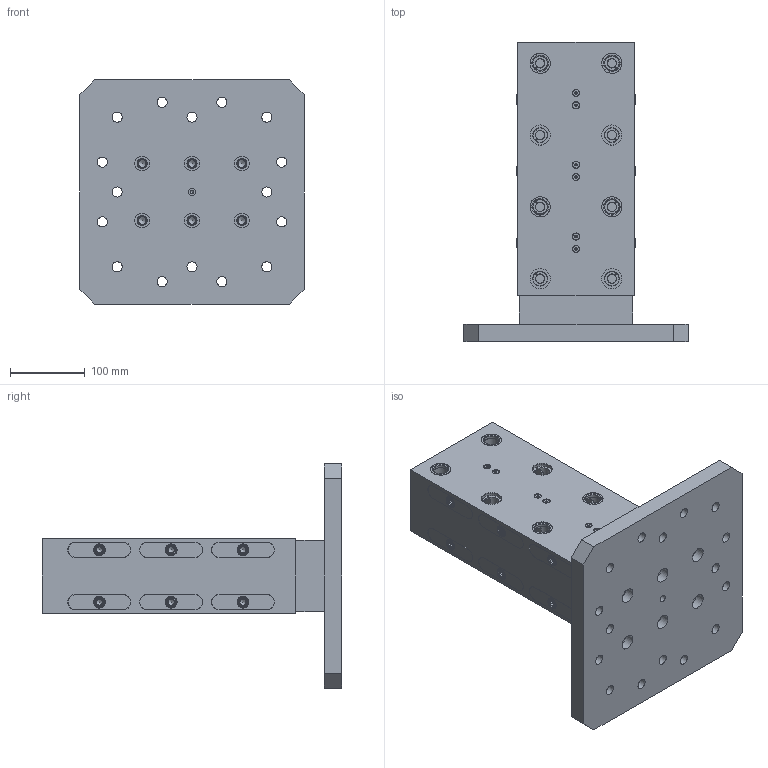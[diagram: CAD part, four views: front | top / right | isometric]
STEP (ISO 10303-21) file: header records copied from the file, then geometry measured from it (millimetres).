
FILE_DESCRIPTION (( 'STEP AP214' ), '1' );
FILE_NAME ('RL96S-3002-400_WEBSITE.step', '2025-08-11T11:37:43', ( '' ), ( '' ), 'SwSTEP 2.0', 'SolidWorks 2025', '' );
FILE_SCHEMA (( 'AUTOMOTIVE_DESIGN' ));
Length unit declared in the file: millimetre
Products named in the file (9): MT-2337S_WEBSITE; RL96-3_dev_WEBSITE_PLATING; SB54_dev_WEBSITE_FINISHED PART; HW27X20.DB_dev_WEBSITE_PLATING; RL96-3002-337S_WEBSITE; RL96S-3002-400_WEBSITE; RL96-2L_dev_WEBSITE; RL96-3002BS_WEBSITE; RL96-2R_dev_WEBSITE_PLATING
Assembly tree (41 placements, depth 3):
  RL96S-3002-400_WEBSITE
    RL96-3002-337S_WEBSITE
      MT-2337S_WEBSITE
      RL96-3002BS_WEBSITE
    HW27X20.DB_dev_WEBSITE_PLATING  x8
    SB54_dev_WEBSITE_FINISHED PART  x12
    RL96-2R_dev_WEBSITE_PLATING  x6
    RL96-2L_dev_WEBSITE  x6
    RL96-3_dev_WEBSITE_PLATING  x6
Bounding box: 300 x 400 x 300 mm (x, y, z)
Volume: 7344584.9 mm3; surface area: 783106.6 mm2
Topology: 40 solids, 40 shells, 1541 faces, 3647 edges, 2318 vertices
Faces by surface type: plane 978, cylinder 433, cone 110, torus 20
Full cylindrical faces by diameter (mm): 2.642 x12, 3.3 x12, 4 x12, 4.7 x12, 5 x13, 5.182 x12, 8.204 x12, 9 x12, 9.525 x12, 10.013 x1, 10.02 x2, 10.025 x2, 10.2 x6, 10.795 x6, 11.938 x16, 12 x6, 12.573 x16, 13 x6, 13.5 x22, 14 x13, 15.748 x12, 19.05 x12, 19.101 x16, 19.99 x6, 20 x22, 20.015 x16, 20.035 x8, 26.977 x16, 26.993 x8, 27.051 x16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
Entity records: 19934 total; most frequent: CARTESIAN_POINT 5725, DIRECTION 2938, ORIENTED_EDGE 2232, AXIS2_PLACEMENT_3D 1265, EDGE_CURVE 1116, EDGE_LOOP 1112, VERTEX_POINT 868, FACE_OUTER_BOUND 846
